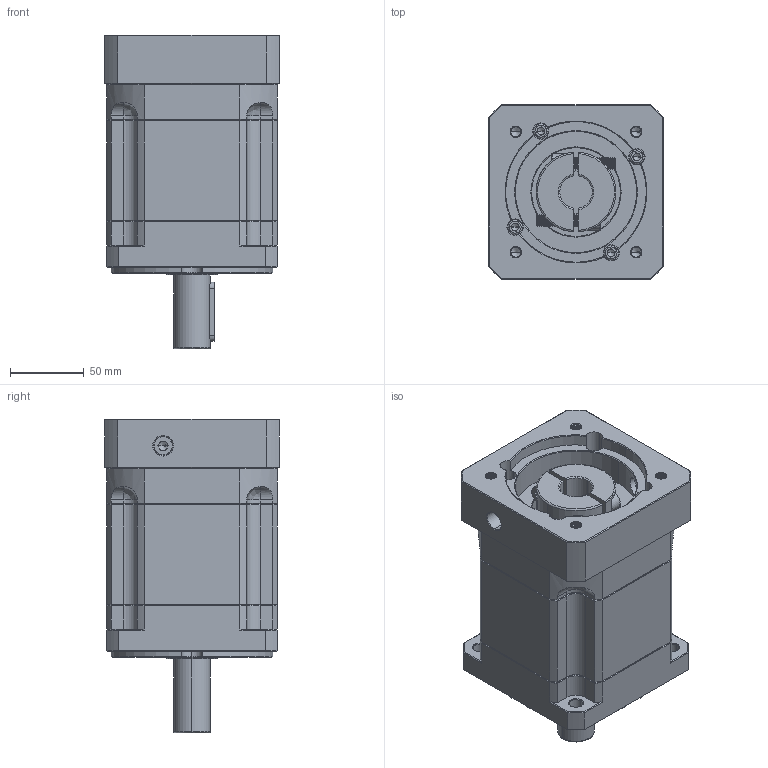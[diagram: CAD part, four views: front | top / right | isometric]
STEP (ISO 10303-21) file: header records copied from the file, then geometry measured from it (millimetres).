
FILE_DESCRIPTION (( 'STEP AP214' ), '1' );
FILE_NAME ('ZB115A-D25-L2-22-95-115-M8.step', '2023-03-02T08:57:31', ( '' ), ( 'Microsoft' ), 'SwSTEP 2.0', 'SolidWorks 2016', '' );
FILE_SCHEMA (( 'AUTOMOTIVE_DESIGN' ));
Length unit declared in the file: millimetre
Products named in the file (1): ZB115A-D25-L2-22-95-115-M8
Bounding box: 118 x 118 x 212 mm (x, y, z)
Volume: 1792081 mm3; surface area: 174654 mm2
Topology: 6 solids, 6 shells, 2128 faces, 5506 edges, 3469 vertices
Faces by surface type: plane 964, cylinder 448, cone 371, bspline 325, torus 20
Entity records: 113731 total; most frequent: CARTESIAN_POINT 41315, ORIENTED_EDGE 10944, DIRECTION 8985, EDGE_CURVE 5472, VERTEX_POINT 3469, LINE 3377, VECTOR 3377, AXIS2_PLACEMENT_3D 2804
